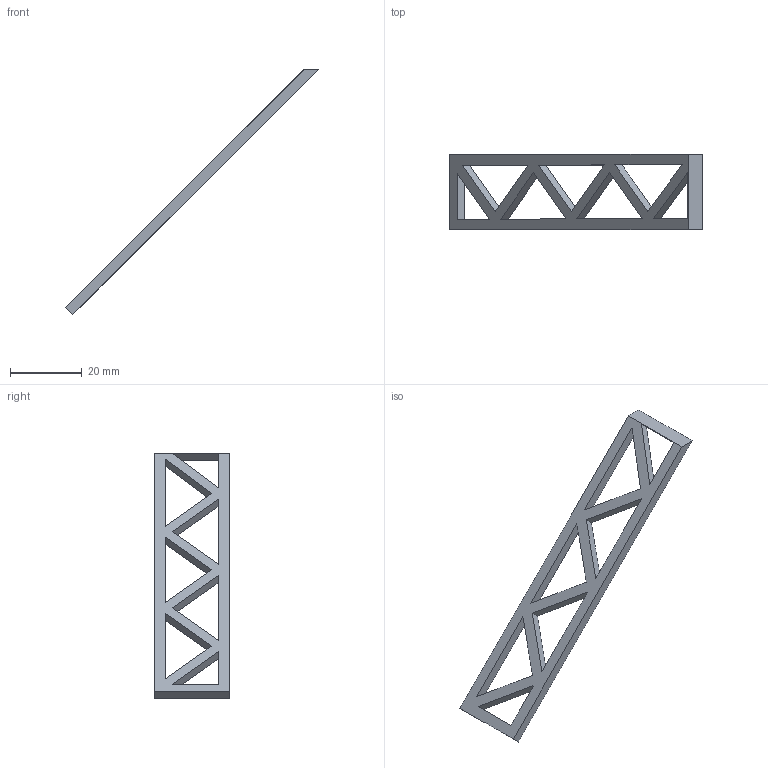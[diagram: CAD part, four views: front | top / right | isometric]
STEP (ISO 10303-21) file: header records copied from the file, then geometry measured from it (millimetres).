
FILE_DESCRIPTION(/* description */ ('','CAx-IF Rec.Pracs.---Representation and Presentation of Product Manufacturing Information (PMI)---4.0---2014-10-13'),/* implementation_level */ '2;1');
FILE_NAME(/* name */ 'Shelf Support Arm.step',/* time_stamp */ '2024-11-28T18:07:28-05:00',/* author */ (''),/* organization */ (''),/* preprocessor_version */ 'ST-DEVELOPER v20',/* originating_system */ 'Autodesk Translation Framework v13.20.0.188',/* authorisation */ '');
FILE_SCHEMA (('AP242_MANAGED_MODEL_BASED_3D_ENGINEERING_MIM_LF { 1 0 10303 442 1 1 4 }'));
Length unit declared in the file: millimetre
Products named in the file (1): Shelf Support Arm
Bounding box: 70.42 x 21 x 68.42 mm (x, y, z)
Volume: 2833.3 mm3; surface area: 3819 mm2
Topology: 1 solids, 1 shells, 27 faces, 75 edges, 50 vertices
Faces by surface type: plane 27
Entity records: 910 total; most frequent: CARTESIAN_POINT 153, ORIENTED_EDGE 150, DIRECTION 131, LINE 75, VECTOR 75, EDGE_CURVE 75, VERTEX_POINT 50, EDGE_LOOP 41
